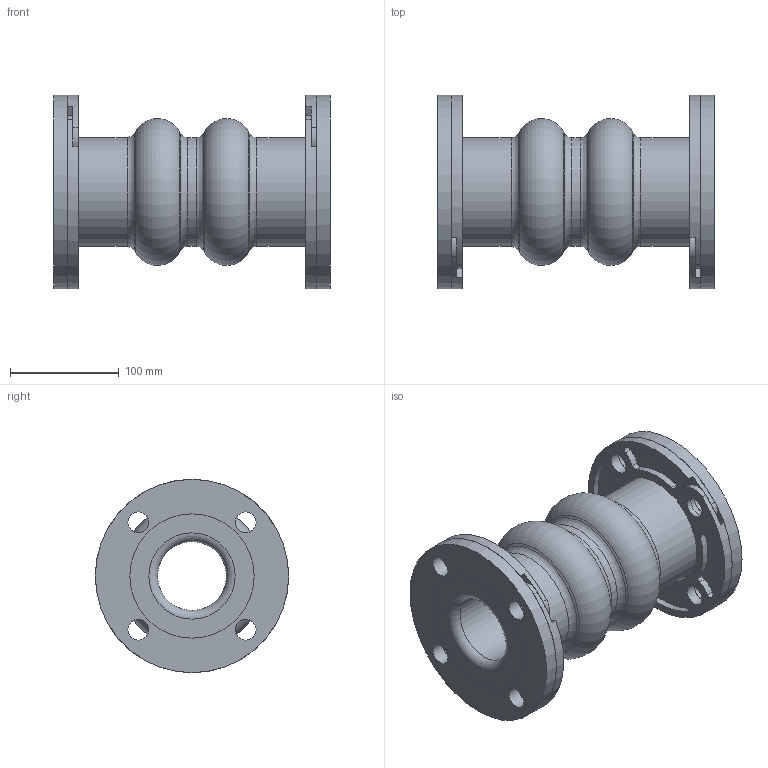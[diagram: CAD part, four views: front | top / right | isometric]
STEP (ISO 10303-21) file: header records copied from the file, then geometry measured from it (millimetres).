
FILE_DESCRIPTION(/* description */ (''),/* implementation_level */ '2;1');
FILE_NAME(/* name */ 'C:\001_Work\Designs\Mercer2014\702 2.5IDx10FF.stp',/* time_stamp */ '2016-04-10T14:34:01-04:00',/* author */ ('rramoutar'),/* organization */ ('Mason Industries Inc.'),/* preprocessor_version */ 'ST-DEVELOPER v15.6',/* originating_system */ 'Autodesk Inventor 2015',/* authorisation */ '');
FILE_SCHEMA (('CONFIG_CONTROL_DESIGN'));
Length unit declared in the file: inch
Products named in the file (1): 702 2.5IDx10FF
Bounding box: 254 x 177.8 x 177.8 mm (x, y, z)
Volume: 2087182.1 mm3; surface area: 344430.9 mm2
Topology: 5 solids, 5 shells, 184 faces, 466 edges, 304 vertices
Faces by surface type: cylinder 108, plane 54, torus 14, cone 8
Full cylindrical faces by diameter (mm): 19.05 x20, 63.5 x3, 100.012 x3, 177.8 x2
Entity records: 5688 total; most frequent: DIRECTION 1034, CARTESIAN_POINT 897, ORIENTED_EDGE 824, AXIS2_PLACEMENT_3D 437, EDGE_CURVE 412, VERTEX_POINT 300, EDGE_LOOP 288, CIRCLE 252
